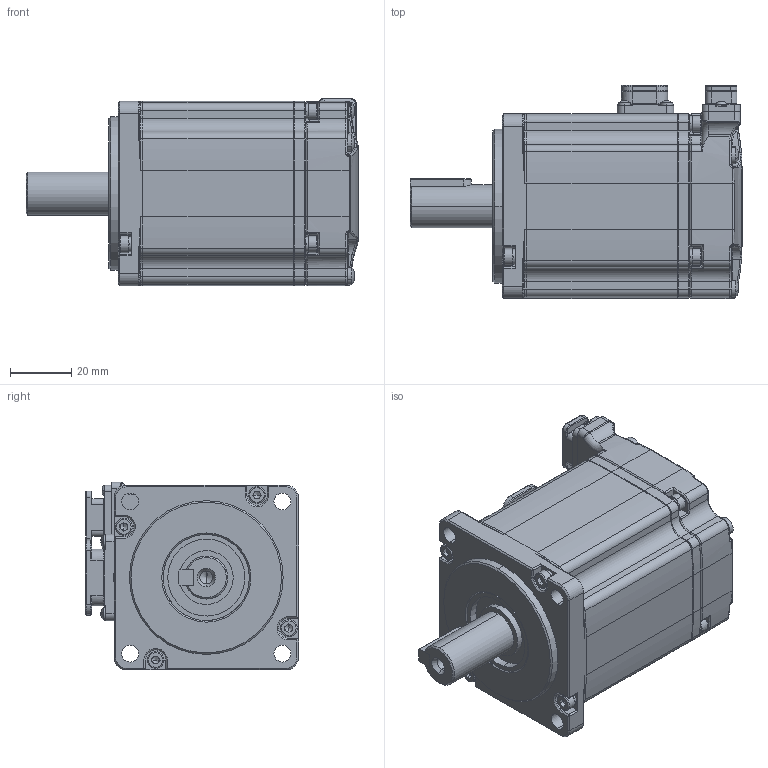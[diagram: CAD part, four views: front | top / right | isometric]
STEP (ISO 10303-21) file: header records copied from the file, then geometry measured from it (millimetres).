
FILE_DESCRIPTION (( 'STEP AP214' ), '1' );
FILE_NAME ('EM3A-02ALA223-N.STEP', '2022-09-06T05:13:27', ( '' ), ( '' ), 'SwSTEP 2.0', 'SolidWorks 2018', '' );
FILE_SCHEMA (( 'AUTOMOTIVE_DESIGN' ));
Length unit declared in the file: millimetre
Products named in the file (1): EM3A-02ALA223-N
Bounding box: 108 x 69.3 x 61 mm (x, y, z)
Volume: 243370.7 mm3; surface area: 67599.8 mm2
Topology: 23 solids, 23 shells, 3168 faces, 8192 edges, 5106 vertices
Faces by surface type: plane 1558, cylinder 993, torus 219, cone 208, bspline 151, sphere 39
Entity records: 140379 total; most frequent: CARTESIAN_POINT 28607, ORIENTED_EDGE 16218, DIRECTION 15898, EDGE_CURVE 8109, AXIS2_PLACEMENT_3D 5630, VERTEX_POINT 5106, LINE 4638, VECTOR 4638
